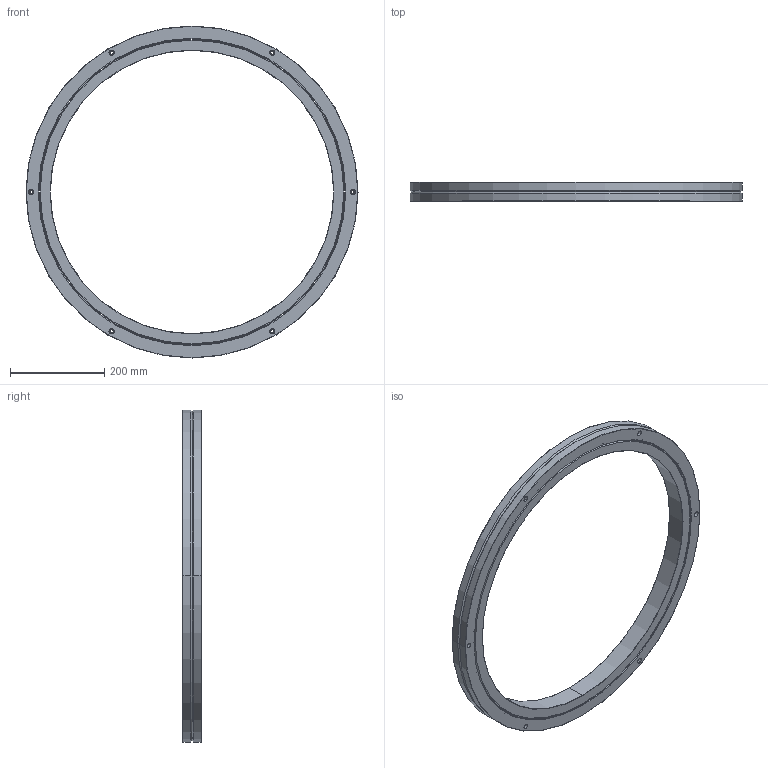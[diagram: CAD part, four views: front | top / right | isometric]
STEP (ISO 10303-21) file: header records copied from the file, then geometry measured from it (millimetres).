
FILE_DESCRIPTION((''),'2;1');
FILE_NAME('RB60040','2015-08-28T',('Administrator'),(''),'PRO/ENGINEER BY PARAMETRIC TECHNOLOGY CORPORATION, 2010180','PRO/ENGINEER BY PARAMETRIC TECHNOLOGY CORPORATION, 2010180','');
FILE_SCHEMA(('AUTOMOTIVE_DESIGN_CC2 { 1 2 10303 214 -1 1 5 2 }'));
Length unit declared in the file: millimetre
Products named in the file (1): RB60040
Bounding box: 703 x 40 x 703 mm (x, y, z)
Volume: 3606749.4 mm3; surface area: 601896.9 mm2
Topology: 2 solids, 2 shells, 104 faces, 220 edges, 138 vertices
Faces by surface type: cylinder 62, plane 22, cone 12, torus 8
Entity records: 2965 total; most frequent: DIRECTION 574, CARTESIAN_POINT 462, ORIENTED_EDGE 440, AXIS2_PLACEMENT_3D 250, EDGE_CURVE 220, CIRCLE 146, VERTEX_POINT 138, EDGE_LOOP 138
